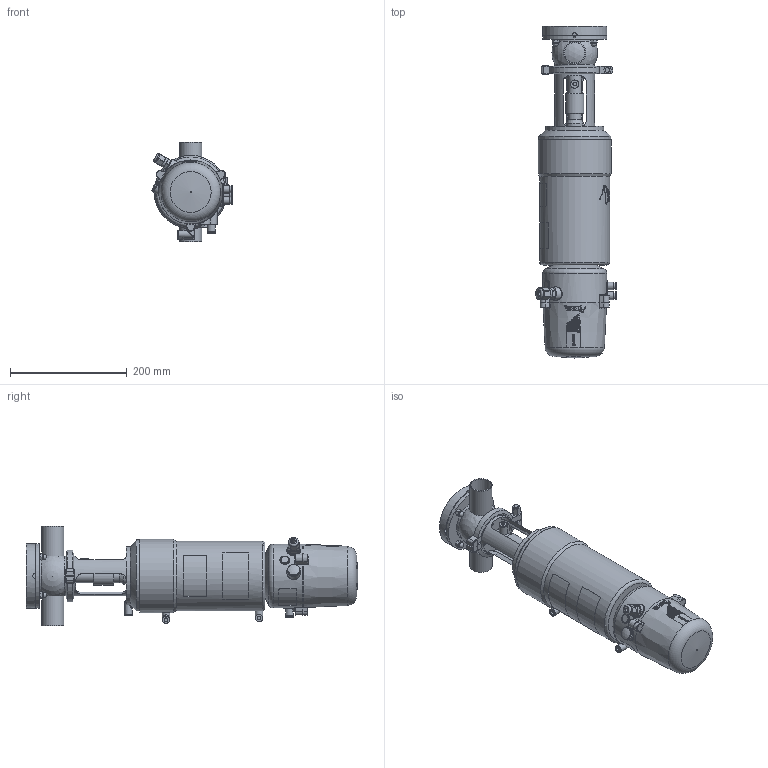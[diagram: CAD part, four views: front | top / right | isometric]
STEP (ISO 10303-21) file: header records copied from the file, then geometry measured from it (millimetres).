
FILE_DESCRIPTION (( 'STEP AP214' ), '1' );
FILE_NAME ('INNOVA T T W OD 1½ & C-TOP S_10.252.16.0008.STEP', '2024-08-20T12:22:20', ( '' ), ( '' ), 'SwSTEP 2.0', 'SolidWorks 2023', '' );
FILE_SCHEMA (( 'AUTOMOTIVE_DESIGN' ));
Length unit declared in the file: millimetre
Products named in the file (7): 10.248.15.0003_DIN 040 _ OD 1½"; 10.240.15.0007_OD 1½"; 10.250.15.0002_Type T T1; 10.426.15.0001_C-TOP S - 3 EV; INNOVA T T W OD 1½ & C-TOP S_10.252.16.0008; 10.240.15.0001_DN 040; 10.252.15.0001_OD 1½"
Assembly tree (6 placements, depth 2):
  INNOVA T T W OD 1½ & C-TOP S_10.252.16.0008
    10.240.15.0007_OD 1½"
    10.248.15.0003_DIN 040 _ OD 1½"
    10.252.15.0001_OD 1½"
    10.250.15.0002_Type T T1
    10.240.15.0001_DN 040
    10.426.15.0001_C-TOP S - 3 EV
Bounding box: 137.63 x 567.47 x 170 mm (x, y, z)
Volume: 4681375.8 mm3; surface area: 355740.8 mm2
Topology: 6 solids, 6 shells, 1202 faces, 2900 edges, 1929 vertices
Faces by surface type: plane 421, cylinder 378, cone 196, bspline 163, torus 33, sphere 11
Full cylindrical faces by diameter (mm): 0.371 x17, 0.512 x16, 0.658 x16, 0.795 x16, 0.94 x15, 1.098 x15, 1.241 x13, 1.382 x13, 1.523 x11, 1.669 x10, 2.201 x1, 4.2 x2, 5 x1, 5.5 x2, 6 x5, 6.15 x3, 8 x3, 9.5 x4, 10 x1, 10.5 x3, 11 x4, 12 x1, 12.5 x9, 13 x6, 13.5 x2, 14 x2, 17 x3, 20 x2, 22 x2, 23 x2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
Entity records: 60641 total; most frequent: CARTESIAN_POINT 28313, ORIENTED_EDGE 4896, DIRECTION 4027, EDGE_CURVE 2448, VERTEX_POINT 1741, EDGE_LOOP 1695, AXIS2_PLACEMENT_3D 1628, FACE_OUTER_BOUND 1434
